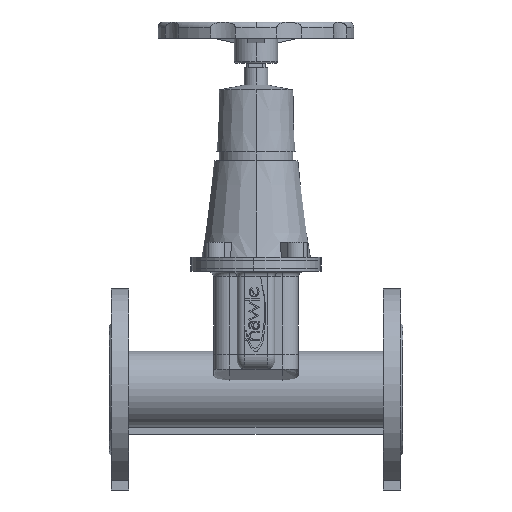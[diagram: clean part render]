
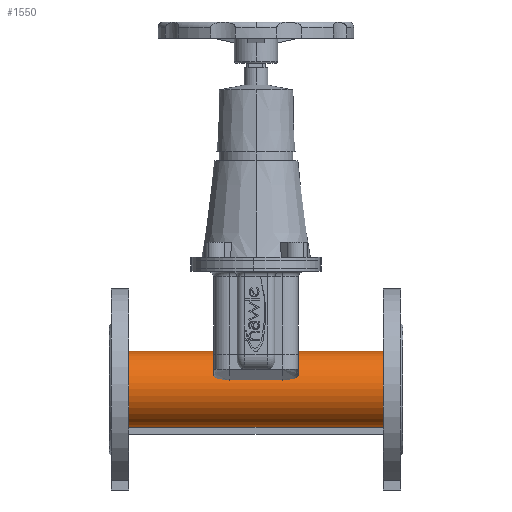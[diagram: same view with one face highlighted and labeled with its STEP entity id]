
A CAD part, front view. The second image highlights one B-rep face of the part: STEP entity #1550.
In plain terms, the highlighted cylindrical face has radius 35 mm (diameter 70 mm), a partial arc.
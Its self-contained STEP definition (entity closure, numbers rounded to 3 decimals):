
#1550=ADVANCED_FACE('',(#3189),#3190,.T.);
#3189=FACE_OUTER_BOUND('',#5378,.T.);
#3190=CYLINDRICAL_SURFACE('',#5379,35.0);
#5378=EDGE_LOOP('',(#8155,#8156,#8157,#8158));
#5379=AXIS2_PLACEMENT_3D('',#8159,#8160,#8161);
#8155=ORIENTED_EDGE('',*,*,#12546,.F.);
#8156=ORIENTED_EDGE('',*,*,#12282,.T.);
#8157=ORIENTED_EDGE('',*,*,#12547,.F.);
#8158=ORIENTED_EDGE('',*,*,#12548,.T.);
#8159=CARTESIAN_POINT('',(18.0,0.0,0.));
#8160=DIRECTION('',(1.0,0.0,0.));
#8161=DIRECTION('',(0.,0.0,1.0));
#12282=EDGE_CURVE('',#14654,#14655,#14656,.T.);
#12546=EDGE_CURVE('',#14654,#15067,#15068,.T.);
#12547=EDGE_CURVE('',#15069,#14655,#15070,.T.);
#12548=EDGE_CURVE('',#15069,#15067,#15071,.T.);
#14654=VERTEX_POINT('',#18053);
#14655=VERTEX_POINT('',#18054);
#14656=CIRCLE('',#18055,35.0);
#15067=VERTEX_POINT('',#18587);
#15068=LINE('',#18588,#18589);
#15069=VERTEX_POINT('',#18590);
#15070=LINE('',#18591,#18592);
#15071=CIRCLE('',#18593,35.0);
#18053=CARTESIAN_POINT('',(18.0,0.0,35.0));
#18054=CARTESIAN_POINT('',(18.0,0.,-35.0));
#18055=AXIS2_PLACEMENT_3D('',#21280,#21281,#21282);
#18587=CARTESIAN_POINT('',(252.0,0.0,35.0));
#18588=CARTESIAN_POINT('',(18.0,0.,35.0));
#18589=VECTOR('',#21641,1.0);
#18590=CARTESIAN_POINT('',(252.0,0.,-35.0));
#18591=CARTESIAN_POINT('',(18.0,0.,-35.0));
#18592=VECTOR('',#21642,1.0);
#18593=AXIS2_PLACEMENT_3D('',#21643,#21644,#21645);
#21280=CARTESIAN_POINT('',(18.0,0.0,0.));
#21281=DIRECTION('',(1.0,0.0,0.));
#21282=DIRECTION('',(0.,0.0,1.0));
#21641=DIRECTION('',(1.0,0.0,0.));
#21642=DIRECTION('',(-1.0,-0.0,0.));
#21643=CARTESIAN_POINT('',(252.0,0.0,0.));
#21644=DIRECTION('',(-1.0,0.0,0.));
#21645=DIRECTION('',(0.,0.0,1.0));
